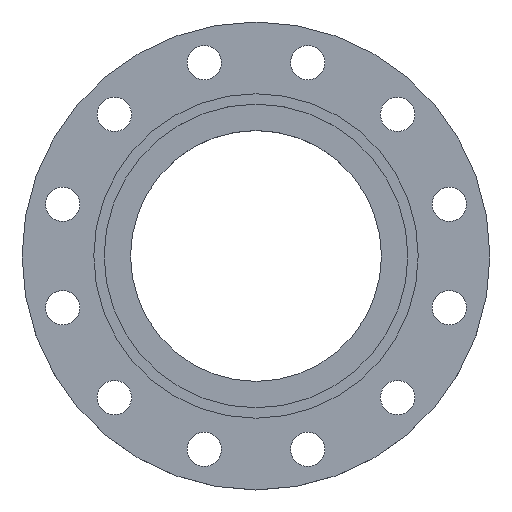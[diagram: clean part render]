
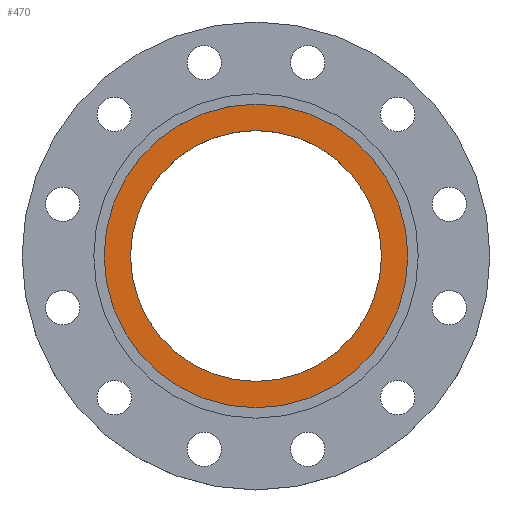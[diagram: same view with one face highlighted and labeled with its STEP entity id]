
A CAD part, top view. The second image highlights one B-rep face of the part: STEP entity #470.
In plain terms, the highlighted planar face has unit normal (0, 0, 1).
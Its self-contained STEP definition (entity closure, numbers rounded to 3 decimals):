
#2 = EDGE_CURVE ( 'NONE', #19, #1286, #1266, .T. ) ;
#16 = AXIS2_PLACEMENT_3D ( 'NONE', #872, #870, #869 ) ;
#19 = VERTEX_POINT ( 'NONE', #882 ) ;
#30 = EDGE_CURVE ( 'NONE', #1286, #19, #877, .T. ) ;
#59 = CIRCLE ( 'NONE', #1108, 146. ) ;
#90 = CARTESIAN_POINT ( 'NONE',  ( 146., 0., -5. ) ) ;
#103 = CARTESIAN_POINT ( 'NONE',  ( -146., 0., -5. ) ) ;
#109 = EDGE_CURVE ( 'NONE', #1343, #1335, #276, .T. ) ;
#175 = CARTESIAN_POINT ( 'NONE',  ( 120.67, 0., -5. ) ) ;
#186 = AXIS2_PLACEMENT_3D ( 'NONE', #904, #938, #1257 ) ;
#240 = AXIS2_PLACEMENT_3D ( 'NONE', #810, #809, #808 ) ;
#276 = CIRCLE ( 'NONE', #240, 146. ) ;
#379 = DIRECTION ( 'NONE',  ( -1., 0., 0. ) ) ;
#380 = DIRECTION ( 'NONE',  ( 0., 0., -1. ) ) ;
#381 = CARTESIAN_POINT ( 'NONE',  ( 0., 0., -5. ) ) ;
#470 = ADVANCED_FACE ( 'NONE', ( #731, #730 ), #729, .T. ) ;
#719 = AXIS2_PLACEMENT_3D ( 'NONE', #728, #727, #726 ) ;
#726 = DIRECTION ( 'NONE',  ( 1., 0., 0. ) ) ;
#727 = DIRECTION ( 'NONE',  ( 0., 0., 1. ) ) ;
#728 = CARTESIAN_POINT ( 'NONE',  ( 146., 0., -5. ) ) ;
#729 = PLANE ( 'NONE',  #719 ) ;
#730 = FACE_OUTER_BOUND ( 'NONE', #994, .T. ) ;
#731 = FACE_BOUND ( 'NONE', #986, .T. ) ;
#808 = DIRECTION ( 'NONE',  ( -1., 0., 0. ) ) ;
#809 = DIRECTION ( 'NONE',  ( 0., 0., -1. ) ) ;
#810 = CARTESIAN_POINT ( 'NONE',  ( 0., 0., -5. ) ) ;
#869 = DIRECTION ( 'NONE',  ( 1., 0., 0. ) ) ;
#870 = DIRECTION ( 'NONE',  ( 0., 0., 1. ) ) ;
#872 = CARTESIAN_POINT ( 'NONE',  ( 0., 0., -5. ) ) ;
#877 = CIRCLE ( 'NONE', #16, 120.67 ) ;
#882 = CARTESIAN_POINT ( 'NONE',  ( -120.67, 0., -5. ) ) ;
#904 = CARTESIAN_POINT ( 'NONE',  ( 0., 0., -5. ) ) ;
#938 = DIRECTION ( 'NONE',  ( 0., 0., 1. ) ) ;
#986 = EDGE_LOOP ( 'NONE', ( #1121, #1123 ) ) ;
#994 = EDGE_LOOP ( 'NONE', ( #1124, #1126 ) ) ;
#1108 = AXIS2_PLACEMENT_3D ( 'NONE', #381, #380, #379 ) ;
#1121 = ORIENTED_EDGE ( 'NONE', *, *, #30, .F. ) ;
#1123 = ORIENTED_EDGE ( 'NONE', *, *, #2, .F. ) ;
#1124 = ORIENTED_EDGE ( 'NONE', *, *, #1195, .F. ) ;
#1126 = ORIENTED_EDGE ( 'NONE', *, *, #109, .F. ) ;
#1195 = EDGE_CURVE ( 'NONE', #1335, #1343, #59, .T. ) ;
#1257 = DIRECTION ( 'NONE',  ( 1., 0., 0. ) ) ;
#1266 = CIRCLE ( 'NONE', #186, 120.67 ) ;
#1286 = VERTEX_POINT ( 'NONE', #175 ) ;
#1335 = VERTEX_POINT ( 'NONE', #103 ) ;
#1343 = VERTEX_POINT ( 'NONE', #90 ) ;
